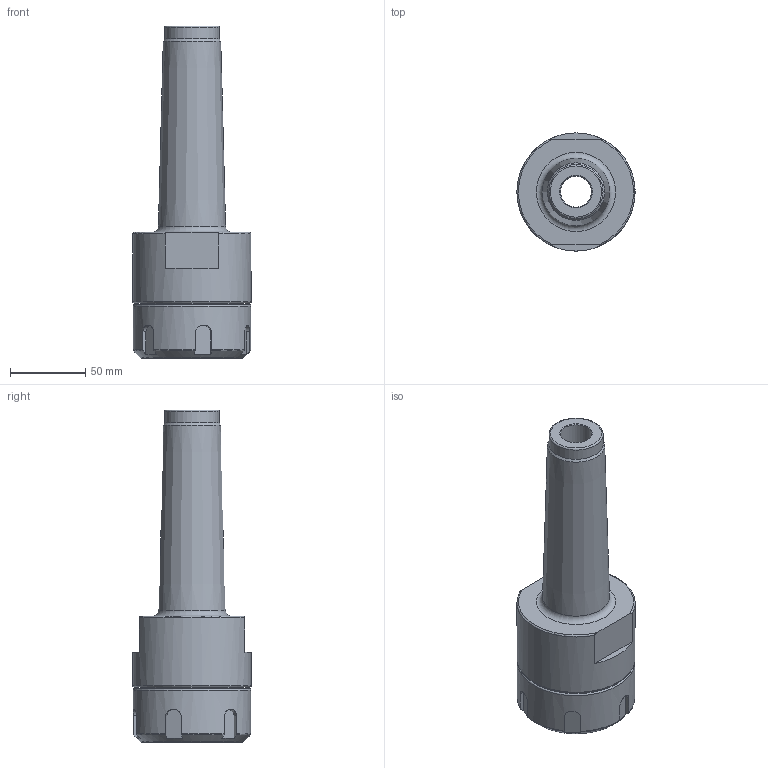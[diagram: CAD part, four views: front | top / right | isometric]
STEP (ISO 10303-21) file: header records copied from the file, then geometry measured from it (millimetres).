
FILE_DESCRIPTION(/* description */ (''),/* implementation_level */ '2;1');
FILE_NAME(/* name */ 'Z:\Проектный отдел\Алена\Цанговый патрон MTB5-ER50-М20\MTB5-ER50-М20.stp',/* time_stamp */ '2024-01-26T11:16:51+03:00',/* author */ ('User'),/* organization */ (''),/* preprocessor_version */ 'ST-DEVELOPER v18',/* originating_system */ 'Autodesk Inventor 2020',/* authorisation */ '');
FILE_SCHEMA (('AUTOMOTIVE_DESIGN { 1 0 10303 214 3 1 1 }'));
Length unit declared in the file: millimetre
Products named in the file (3): MTB5-ER50-М20; MTB5-ER50-М20_1; Крышка
Assembly tree (2 placements, depth 2):
  MTB5-ER50-М20
    MTB5-ER50-М20_1
    Крышка
Bounding box: 78.5 x 78.5 x 220.5 mm (x, y, z)
Volume: 430549.7 mm3; surface area: 78276.3 mm2
Topology: 2 solids, 2 shells, 71 faces, 210 edges, 147 vertices
Faces by surface type: plane 36, torus 15, cylinder 13, cone 7
Full cylindrical faces by diameter (mm): 20.7 x1, 34 x1, 36 x1, 62 x2, 78 x1, 78.5 x1
Entity records: 2766 total; most frequent: CARTESIAN_POINT 718, ORIENTED_EDGE 420, DIRECTION 406, EDGE_CURVE 210, AXIS2_PLACEMENT_3D 171, VERTEX_POINT 147, CIRCLE 94, EDGE_LOOP 79
